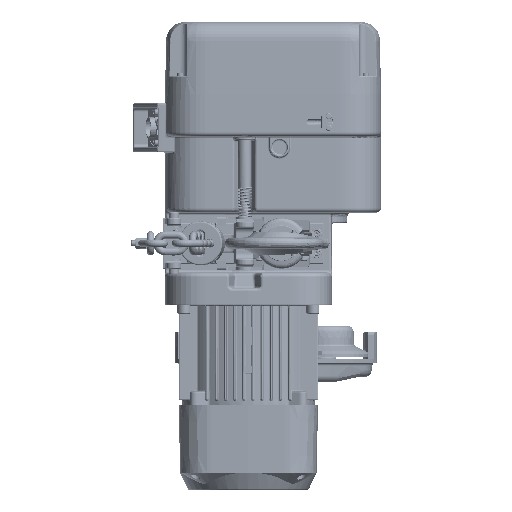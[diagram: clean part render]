
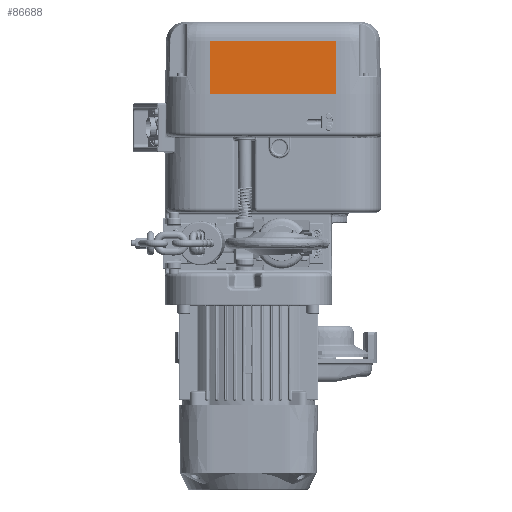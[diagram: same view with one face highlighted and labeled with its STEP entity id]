
A CAD part, front view. The second image highlights one B-rep face of the part: STEP entity #86688.
In plain terms, the highlighted planar face has unit normal (0, -1, 0.018).
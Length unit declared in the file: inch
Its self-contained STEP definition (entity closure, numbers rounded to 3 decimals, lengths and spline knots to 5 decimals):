
#12733 = VERTEX_POINT ( 'NONE', #176684 ) ;
#28890 = CARTESIAN_POINT ( 'NONE',  ( 0., -4.74409, 0. ) ) ;
#30583 = EDGE_CURVE ( 'NONE', #150277, #12733, #39135, .T. ) ;
#38265 = VECTOR ( 'NONE', #199641, 39.37008 ) ;
#38391 = EDGE_CURVE ( 'NONE', #12733, #177675, #154493, .T. ) ;
#39135 = LINE ( 'NONE', #108288, #178933 ) ;
#45610 = DIRECTION ( 'NONE',  ( -1., 0., 0. ) ) ;
#66428 = FACE_OUTER_BOUND ( 'NONE', #146484, .T. ) ;
#66996 = EDGE_CURVE ( 'NONE', #163222, #177675, #113169, .T. ) ;
#69817 = CARTESIAN_POINT ( 'NONE',  ( 0., -4.74409, 0. ) ) ;
#83284 = ORIENTED_EDGE ( 'NONE', *, *, #30583, .F. ) ;
#84828 = DIRECTION ( 'NONE',  ( 0., -0.017, -1. ) ) ;
#86688 = ADVANCED_FACE ( 'NONE', ( #66428 ), #189746, .T. ) ;
#89849 = DIRECTION ( 'NONE',  ( 0., -0.017, -1. ) ) ;
#96312 = EDGE_CURVE ( 'NONE', #150277, #163222, #155031, .T. ) ;
#103439 = VECTOR ( 'NONE', #222471, 39.37008 ) ;
#108288 = CARTESIAN_POINT ( 'NONE',  ( 3.4341, -4.74409, 0. ) ) ;
#113169 = LINE ( 'NONE', #148893, #38265 ) ;
#140145 = DIRECTION ( 'NONE',  ( 0., -1., 0.017 ) ) ;
#140237 = CARTESIAN_POINT ( 'NONE',  ( 3.4341, -4.69293, 2.93125 ) ) ;
#140610 = ORIENTED_EDGE ( 'NONE', *, *, #38391, .F. ) ;
#146484 = EDGE_LOOP ( 'NONE', ( #83284, #219772, #214085, #140610 ) ) ;
#148266 = CARTESIAN_POINT ( 'NONE',  ( -3.4341, -4.74409, 0. ) ) ;
#148893 = CARTESIAN_POINT ( 'NONE',  ( -3.4341, -4.74409, 0. ) ) ;
#150277 = VERTEX_POINT ( 'NONE', #140237 ) ;
#154493 = LINE ( 'NONE', #28890, #103439 ) ;
#155031 = LINE ( 'NONE', #189607, #156645 ) ;
#156645 = VECTOR ( 'NONE', #45610, 39.37008 ) ;
#163222 = VERTEX_POINT ( 'NONE', #187206 ) ;
#176684 = CARTESIAN_POINT ( 'NONE',  ( 3.4341, -4.74409, 0. ) ) ;
#177675 = VERTEX_POINT ( 'NONE', #148266 ) ;
#178933 = VECTOR ( 'NONE', #89849, 39.37008 ) ;
#179757 = AXIS2_PLACEMENT_3D ( 'NONE', #69817, #140145, #84828 ) ;
#187206 = CARTESIAN_POINT ( 'NONE',  ( -3.4341, -4.69293, 2.93125 ) ) ;
#189607 = CARTESIAN_POINT ( 'NONE',  ( 0., -4.69293, 2.93125 ) ) ;
#189746 = PLANE ( 'NONE',  #179757 ) ;
#199641 = DIRECTION ( 'NONE',  ( 0., -0.017, -1. ) ) ;
#214085 = ORIENTED_EDGE ( 'NONE', *, *, #66996, .T. ) ;
#219772 = ORIENTED_EDGE ( 'NONE', *, *, #96312, .T. ) ;
#222471 = DIRECTION ( 'NONE',  ( -1., 0., 0. ) ) ;
